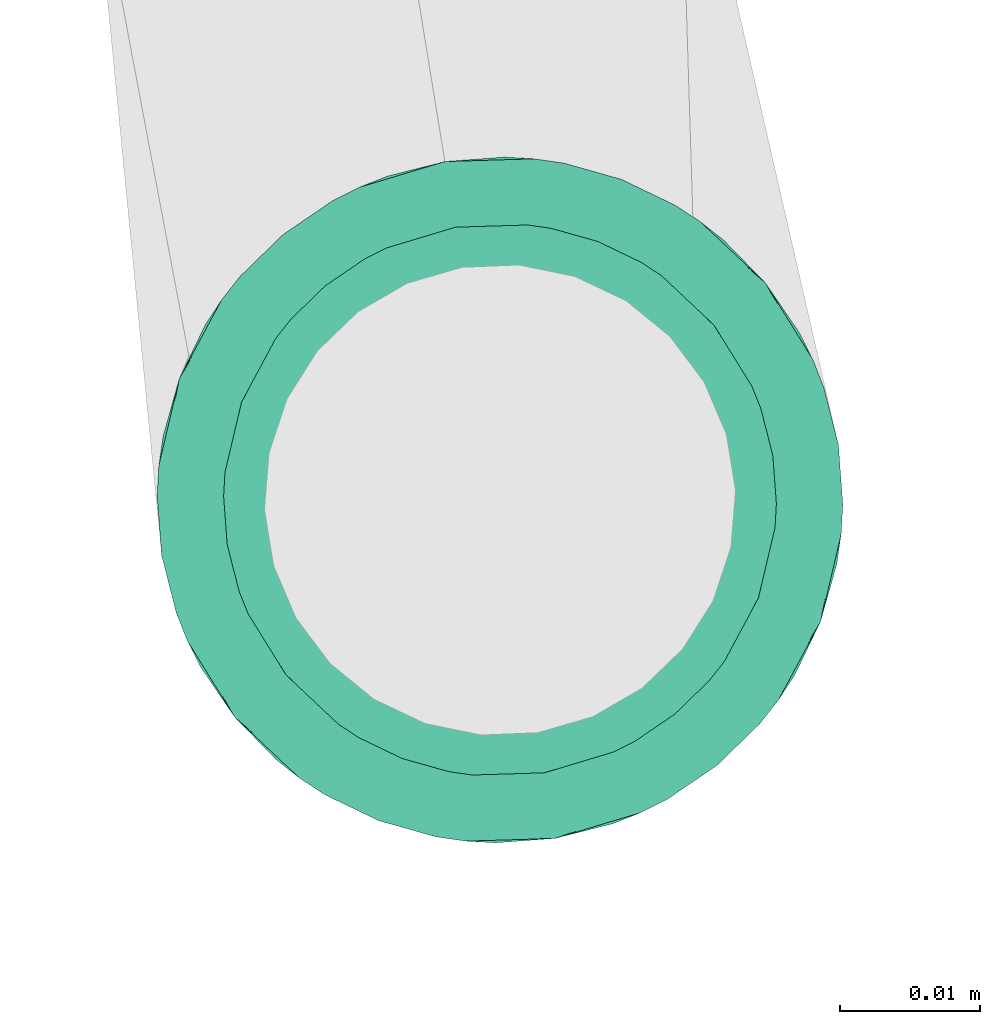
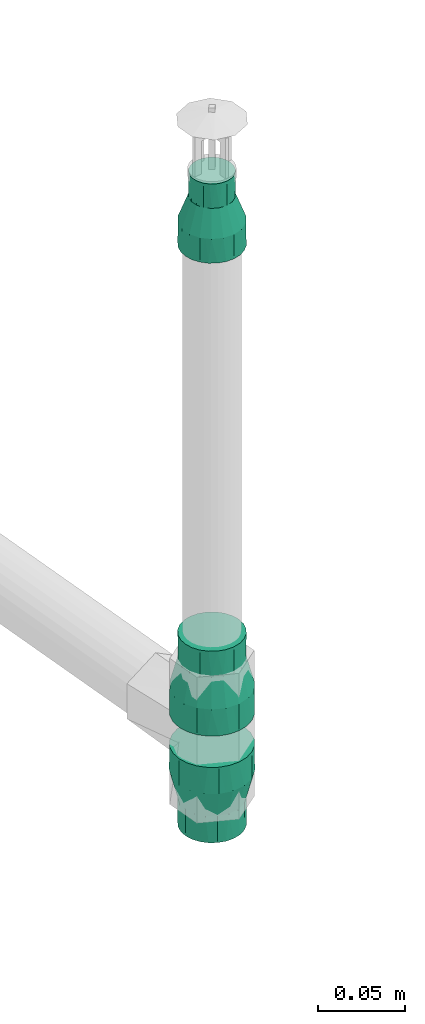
# One storey, part 30 of 56: 3 flow fittings.
"""IFC2X3 building model written with IfcOpenShell, lengths in millimetres."""

from ifc_helpers import new_model, entity, si_unit, converted_unit, derived_unit, direction, frame, origin, origin_with_axes, place, context, subcontext, project, spatial, faceted_brep, source, transform, mapped, material, type_object, element, save


model = new_model("IFC2X3")

# Units and contexts
model_context = context("Model", 3, precision=0.01, world=origin(), true_north=direction((6.12323399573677e-17, 1.0)))
plan_context = context("Plan", 3, precision=1e-05, world=origin_with_axes())
body_context = subcontext(model_context, "Body", "Model", "MODEL_VIEW")
ifc_project = project(units=[converted_unit("PLANEANGLEUNIT", "DEGREE", entity("IfcPositiveLengthMeasure", 0.0174532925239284), si_unit("PLANEANGLEUNIT", "RADIAN"), dimensions=[0, 0, 0, 0, 0, 0, 0]), si_unit("AREAUNIT", "SQUARE_METRE"), si_unit("LENGTHUNIT", "METRE", prefix="MILLI"), si_unit("MASSUNIT", "GRAM", prefix="KILO"), si_unit("POWERUNIT", "WATT"), si_unit("PRESSUREUNIT", "PASCAL", prefix="KILO"), si_unit("FORCEUNIT", "NEWTON", prefix="KILO"), si_unit("ELECTRICVOLTAGEUNIT", "VOLT"), si_unit("ELECTRICCURRENTUNIT", "AMPERE"), si_unit("THERMODYNAMICTEMPERATUREUNIT", "DEGREE_CELSIUS"), si_unit("TIMEUNIT", "SECOND"), si_unit("VOLUMEUNIT", "CUBIC_METRE"), derived_unit("LINEARVELOCITYUNIT", [(si_unit("LENGTHUNIT", "METRE"), 1), (si_unit("TIMEUNIT", "SECOND"), -1)]), derived_unit("VOLUMETRICFLOWRATEUNIT", [(si_unit("VOLUMEUNIT", "CUBIC_METRE"), 1), (si_unit("TIMEUNIT", "SECOND"), -1)]), derived_unit("THERMALTRANSMITTANCEUNIT", [(si_unit("POWERUNIT", "WATT"), 1), (si_unit("THERMODYNAMICTEMPERATUREUNIT", "KELVIN"), -1), (si_unit("AREAUNIT", "SQUARE_METRE"), -1)]), derived_unit("SOUNDPRESSUREUNIT", [(si_unit("PRESSUREUNIT", "PASCAL"), 1)])], contexts=[model_context, plan_context])

# Site, building, storey
site_placement = place(None, frame((-3.09682673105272e-06, 1.93776733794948e-05, 0.0), z_axis=(0.0, 0.0, 1.0), x_axis=(-0.160806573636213, 0.986985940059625, 0.0)))
site = spatial("IfcSite", under=ifc_project, at=site_placement, Name="Default", CompositionType="ELEMENT")
building_placement = place(site_placement, frame((0.0, 0.0, 0.0), z_axis=(0.0, 0.0, 1.0), x_axis=(1.0, -2.77555756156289e-17, 0.0)))
building = spatial("IfcBuilding", under=site, at=building_placement, Name="Bygning (endres i Project Information)", CompositionType="ELEMENT")
storey_placement = place(building_placement, frame((0.0, 0.0, 51360.0000000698), z_axis=(0.0, 0.0, 1.0), x_axis=(1.0, -2.77555756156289e-17, 0.0)))
storey = spatial("IfcBuildingStorey", under=building, at=storey_placement, Name="H01-Nivå D+0,36", CompositionType="ELEMENT", Elevation=51360.0000000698)

# Flow fittings
ifc_material = material(Name="3320.001")
pipe_fitting_type_1 = type_object("IfcPipeFittingType", Name="RS_53_PIF_UN_Reducing-Socket-EN10241_MC_gen:RS_53_PIF_UN_Reducing-Socket-EN10241_MC_gen", PredefinedType="NOTDEFINED", material=ifc_material)
shared_shape_1 = source(origin(), body_context, "Body", "Brep", [
    faceted_brep([(0.0, 5.11167614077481, 19.0770350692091), (0.0, 9.87500000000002, 17.1040017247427), (0.0, 13.9653589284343, 13.9653589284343), (0.0, 17.1040017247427, 9.87499999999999), (0.0, 19.0770350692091, 5.11167614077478), (0.0, 19.75, 0.0), (0.0, 19.0770350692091, -5.1116761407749), (0.0, 17.1040017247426, -9.8750000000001), (0.0, 13.9653589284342, -13.9653589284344), (0.0, 9.87499999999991, -17.1040017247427), (0.0, 5.11167614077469, -19.0770350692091), (0.0, 0.0, -19.75), (0.0, -5.11167614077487, -19.0770350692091), (0.0, -9.87500000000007, -17.1040017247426), (0.0, -13.9653589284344, -13.9653589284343), (0.0, -17.1040017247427, -9.87499999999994), (0.0, -19.0770350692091, -5.11167614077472), (0.0, -19.75, 0.0), (0.0, -19.0770350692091, 5.11167614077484), (0.0, -17.1040017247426, 9.87500000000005), (0.0, -13.9653589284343, 13.9653589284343), (0.0, -9.87499999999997, 17.1040017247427), (0.0, -5.11167614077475, 19.0770350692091), (0.0, 0.0, 19.75), (17.0, -6.65118285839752, -18.277344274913), (17.0, -15.1289479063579, -12.6955675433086), (17.0, -16.8438814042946, -9.72538978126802), (17.0, -18.5588149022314, -6.7552120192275), (17.0, -9.87413131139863, -17.1045032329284), (17.0, -12.5015396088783, -14.9000353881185), (17.0, -19.1544074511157, -3.37760600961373), (17.0, -3.42823440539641, -19.4501853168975), (17.0, 3.43119786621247, -19.4496627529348), (17.0, 0.0014817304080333, -19.4499240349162), (17.0, -19.75, 0.0), (17.0, 6.65396758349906, -18.2763306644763), (17.0, 9.87673730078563, -17.1029985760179), (17.0, 18.5598439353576, -6.75238425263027), (17.0, 16.8453630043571, -9.7228232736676), (17.0, 15.1308820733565, -12.6932622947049), (17.0, 12.5038096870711, -14.8981304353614), (17.0, 19.75, 0.0), (17.0, 15.1308820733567, 12.6932622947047), (17.0, 16.8453630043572, 9.72282327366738), (17.0, 18.5598439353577, 6.75238425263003), (17.0, 9.87673730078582, 17.1029985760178), (17.0, 12.5038096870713, 14.8981304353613), (17.0, 3.43119786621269, 19.4496627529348), (17.0, 6.65396758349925, 18.2763306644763), (17.0, -3.4282344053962, 19.4501853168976), (17.0, 0.00148173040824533, 19.4499240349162), (17.0, -15.1289479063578, 12.6955675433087), (17.0, -6.65118285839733, 18.277344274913), (17.0, -9.87413131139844, 17.1045032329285), (17.0, -12.5015396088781, 14.9000353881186), (17.0, -19.1544074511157, 3.37760600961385), (17.0, -18.5588149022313, 6.75521201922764), (17.0, -16.8438814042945, 9.72538978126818), (34.0, 13.5000000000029, 0.0), (34.0, 12.6868795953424, -4.61444320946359), (34.0, -4.54589529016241, -12.4935366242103), (34.0, -2.34276817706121, -13.2951659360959), (34.0, 6.75195505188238, -11.6902139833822), (34.0, 0.00166747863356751, -13.2948718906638), (34.0, 2.34610313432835, -13.2945778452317), (34.0, 10.3432928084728, -8.67561489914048), (34.0, 8.54762393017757, -10.1829144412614), (34.0, 4.54902909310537, -12.492395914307), (34.0, 11.5150862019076, -6.64502905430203), (34.0, -6.74902240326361, -11.6919073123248), (34.0, -13.4999999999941, 0.0), (34.0, -13.0928608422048, -2.30881275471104), (34.0, -10.3411162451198, -8.6782091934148), (34.0, -8.54506932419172, -10.1850582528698), (34.0, -12.6857216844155, -4.61762550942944), (34.0, -11.5134189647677, -6.64791735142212), (34.0, -13.0928608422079, 2.30881275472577), (34.0, -12.6857216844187, 4.6176255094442), (34.0, 2.34610313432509, 13.2945778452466), (34.0, 4.54902909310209, 12.4923959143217), (34.0, -10.3411162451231, 8.67820919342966), (34.0, 0.00166747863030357, 13.2948718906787), (34.0, -6.74902240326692, 11.6919073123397), (34.0, -8.54506932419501, 10.1850582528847), (34.0, -11.5134189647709, 6.64791735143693), (34.0, -2.34276817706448, 13.2951659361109), (34.0, -4.5458952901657, 12.4935366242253), (34.0, 12.6868795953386, 4.61444320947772), (34.0, 11.5150862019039, 6.64502905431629), (34.0, 10.3432928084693, 8.67561489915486), (34.0, 6.7519550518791, 11.6902139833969), (34.0, 8.54762393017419, 10.1829144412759), (51.0, 3.49405710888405, -13.0399986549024), (51.0, 6.75000000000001, -11.6913429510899), (51.0, 9.5459415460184, -9.54594154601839), (51.0, 11.6913429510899, -6.74999999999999), (51.0, 13.0399986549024, -3.49405710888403), (51.0, 13.5, 0.0), (51.0, 13.0399986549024, 3.49405710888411), (51.0, 11.6913429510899, 6.75000000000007), (51.0, 9.54594154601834, 9.54594154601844), (51.0, 6.74999999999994, 11.69134295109), (51.0, 3.49405710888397, 13.0399986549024), (51.0, 0.0, 13.5), (51.0, -3.49405710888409, 13.0399986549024), (51.0, -6.75000000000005, 11.6913429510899), (51.0, -9.54594154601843, 9.54594154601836), (51.0, -11.6913429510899, 6.74999999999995), (51.0, -13.0399986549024, 3.49405710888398), (51.0, -13.5, 0.0), (51.0, -13.0399986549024, -3.49405710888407), (51.0, -11.6913429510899, -6.75000000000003), (51.0, -9.54594154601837, -9.54594154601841), (51.0, -6.74999999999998, -11.6913429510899), (51.0, -3.49405710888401, -13.0399986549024), (51.0, 0.0, -13.5)], [[[0, 1, 2, 3, 4, 5, 6, 7, 8, 9, 10, 11, 12, 13, 14, 15, 16, 17, 18, 19, 20, 21, 22, 23]], [[24, 13, 12]], [[15, 14, 25]], [[15, 25, 26, 27]], [[28, 29, 13]], [[16, 27, 30]], [[30, 17, 16]], [[15, 27, 16]], [[12, 31, 24]], [[25, 14, 29]], [[11, 32, 33, 31]], [[24, 28, 13]], [[13, 29, 14]], [[30, 34, 17]], [[32, 11, 10]], [[35, 9, 36]], [[7, 37, 38, 39]], [[9, 35, 10]], [[7, 6, 37]], [[8, 39, 40]], [[32, 10, 35]], [[7, 39, 8]], [[40, 36, 9]], [[6, 41, 37]], [[6, 5, 41]], [[11, 31, 12]], [[40, 9, 8]], [[41, 5, 4]], [[3, 2, 42]], [[3, 42, 43, 44]], [[45, 46, 1]], [[44, 41, 4]], [[0, 47, 48]], [[42, 2, 46]], [[23, 49, 50, 47]], [[1, 46, 2]], [[49, 23, 22]], [[19, 51, 20]], [[52, 21, 53]], [[3, 44, 4]], [[48, 45, 1]], [[54, 53, 21]], [[17, 34, 55]], [[21, 52, 22]], [[20, 51, 54]], [[49, 22, 52]], [[48, 1, 0]], [[17, 55, 18]], [[56, 19, 18]], [[18, 55, 56]], [[54, 21, 20]], [[57, 51, 19, 56]], [[23, 47, 0]], [[41, 58, 59]], [[60, 31, 61]], [[40, 62, 36]], [[63, 32, 64]], [[65, 39, 38]], [[64, 32, 35]], [[61, 33, 63]], [[37, 41, 59]], [[62, 40, 66]], [[40, 39, 66]], [[35, 36, 67]], [[65, 38, 68]], [[37, 68, 38]], [[64, 35, 67]], [[61, 31, 33]], [[69, 28, 24]], [[69, 24, 60]], [[70, 30, 71]], [[72, 29, 73]], [[30, 70, 34]], [[74, 27, 26]], [[68, 37, 59]], [[72, 25, 29]], [[27, 74, 71]], [[31, 60, 24]], [[29, 28, 73]], [[75, 26, 25]], [[67, 36, 62]], [[66, 39, 65]], [[27, 71, 30]], [[74, 26, 75]], [[73, 28, 69]], [[63, 33, 32]], [[75, 25, 72]], [[56, 76, 77]], [[48, 78, 79]], [[54, 51, 80]], [[81, 47, 50]], [[57, 56, 77]], [[52, 53, 82]], [[82, 53, 83]], [[55, 70, 76]], [[70, 55, 34]], [[84, 51, 57]], [[50, 85, 81]], [[56, 55, 76]], [[86, 49, 52]], [[83, 53, 54]], [[81, 78, 47]], [[48, 47, 78]], [[80, 51, 84]], [[49, 85, 50]], [[87, 44, 88]], [[87, 58, 41]], [[43, 42, 89]], [[57, 77, 84]], [[46, 45, 90]], [[85, 49, 86]], [[88, 44, 43]], [[54, 80, 83]], [[91, 42, 46]], [[52, 82, 86]], [[89, 42, 91]], [[87, 41, 44]], [[90, 45, 79]], [[46, 90, 91]], [[79, 45, 48]], [[43, 89, 88]], [[92, 93, 94, 95, 96, 97, 98, 99, 100, 101, 102, 103, 104, 105, 106, 107, 108, 109, 110, 111, 112, 113, 114, 115]], [[58, 97, 96]], [[95, 94, 65]], [[95, 65, 68, 59]], [[62, 66, 93]], [[59, 58, 96]], [[92, 64, 67]], [[65, 94, 66]], [[115, 61, 63, 64]], [[93, 66, 94]], [[67, 93, 92]], [[67, 62, 93]], [[95, 59, 96]], [[114, 61, 115]], [[111, 110, 74]], [[73, 113, 112]], [[109, 71, 110]], [[111, 74, 75, 72]], [[109, 70, 71]], [[60, 61, 114]], [[113, 69, 60]], [[111, 72, 112]], [[113, 60, 114]], [[112, 72, 73]], [[115, 64, 92]], [[71, 74, 110]], [[73, 69, 113]], [[86, 105, 104]], [[107, 106, 80]], [[107, 80, 84, 77]], [[82, 83, 105]], [[108, 77, 76]], [[76, 70, 109]], [[76, 109, 108]], [[104, 85, 86]], [[80, 106, 83]], [[103, 78, 81, 85]], [[91, 101, 100]], [[105, 83, 106]], [[86, 82, 105]], [[78, 103, 102]], [[79, 101, 90]], [[99, 87, 88, 89]], [[101, 79, 102]], [[99, 98, 87]], [[100, 89, 91]], [[78, 102, 79]], [[103, 85, 104]], [[99, 89, 100]], [[98, 58, 87]], [[107, 77, 108]], [[98, 97, 58]], [[91, 90, 101]]]),
])
flow_fitting_1_placement = place(storey_placement, frame((994236.263254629, -386286.663841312, 3707.99999993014), z_axis=(2.77555756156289e-17, 1.0, 0.0), x_axis=(0.0, 0.0, 1.0)))
element("IfcFlowFitting", 1, at=flow_fitting_1_placement, inside=storey, type_object=pipe_fitting_type_1, material=ifc_material, Name="RS_53_PIF_UN_Reducing-Socket-EN10241_MC_gen:RS_53_PIF_UN_Reducing-Socket-EN10241_MC_gen", ObjectType="RS_53_PIF_UN_Reducing-Socket-EN10241_MC_gen:RS_53_PIF_UN_Reducing-Socket-EN10241_MC_gen", context=body_context, shape_type="MappedRepresentation", body=[
    mapped(shared_shape_1, transform((0.0, 0.0, 0.0), scale=1.0)),
])
pipe_fitting_type_2 = type_object("IfcPipeFittingType", Name="RS_53_PIF_UN_Reducing-Socket-EN10241_MC_gen:RS_53_PIF_UN_Reducing-Socket-EN10241_MC_gen", PredefinedType="NOTDEFINED", material=ifc_material)
shared_shape_2 = source(origin(), body_context, "Body", "Brep", [
    faceted_brep([(0.0, 0.0, 24.5), (0.0, 6.34106660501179, 23.6651827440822), (0.0, 12.25, 21.2176223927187), (0.0, 17.3241161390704, 17.3241161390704), (0.0, 21.2176223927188, 12.25), (0.0, 23.6651827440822, 6.34106660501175), (0.0, 24.5, 0.0), (0.0, 23.6651827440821, -6.34106660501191), (0.0, 21.2176223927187, -12.2500000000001), (0.0, 17.3241161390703, -17.3241161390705), (0.0, 12.2499999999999, -21.2176223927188), (0.0, 6.34106660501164, -23.6651827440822), (0.0, 0.0, -24.5), (0.0, -6.34106660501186, -23.6651827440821), (0.0, -12.2500000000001, -21.2176223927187), (0.0, -17.3241161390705, -17.3241161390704), (0.0, -21.2176223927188, -12.2499999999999), (0.0, -23.6651827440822, -6.34106660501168), (0.0, -24.5, 0.0), (0.0, -23.6651827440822, 6.34106660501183), (0.0, -21.2176223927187, 12.2500000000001), (0.0, -17.3241161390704, 17.3241161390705), (0.0, -12.25, 21.2176223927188), (0.0, -6.34106660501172, 23.6651827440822), (18.6666666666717, -8.25137606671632, -22.6729794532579), (18.6666666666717, -18.7677686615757, -15.7486780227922), (18.6666666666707, -20.8950763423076, -12.0642027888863), (18.6666666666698, -23.0223840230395, -8.37972755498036), (18.6666666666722, -12.2493529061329, -21.2179959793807), (18.6666666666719, -15.5085607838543, -18.4833370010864), (18.6666666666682, -23.7125607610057, -4.46565710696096), (18.6666666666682, -23.7611920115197, -4.18986377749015), (18.6666666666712, -4.25339922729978, -24.1279629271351), (18.6666666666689, 4.25560674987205, -24.1275736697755), (18.6666666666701, 0.00110376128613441, -24.1277682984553), (18.6666666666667, -24.5, 0.0), (18.6666666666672, 8.25345045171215, -22.6722244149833), (18.6666666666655, 12.2512941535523, -21.2168751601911), (18.6666666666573, 23.0231506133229, -8.37762113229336), (18.6666666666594, 20.8961800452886, -12.062290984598), (18.6666666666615, 18.7692094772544, -15.7469608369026), (18.6666666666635, 15.5102518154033, -18.4819179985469), (18.6666666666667, 24.5, 0.0), (18.6666666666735, 18.7692094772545, 15.7469608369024), (18.666666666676, 20.8961800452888, 12.0622909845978), (18.6666666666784, 23.023150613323, 8.3776211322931), (18.6666666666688, 12.2512941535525, 21.216875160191), (18.6666666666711, 15.5102518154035, 18.4819179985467), (18.6666666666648, 4.25560674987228, 24.1275736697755), (18.6666666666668, 8.25345045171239, 22.6722244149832), (18.6666666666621, -4.25339922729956, 24.1279629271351), (18.6666666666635, 0.00110376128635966, 24.1277682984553), (18.6666666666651, -23.7611920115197, 4.1898637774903), (18.6666666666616, -8.25137606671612, 22.672979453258), (18.666666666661, -12.2493529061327, 21.2179959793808), (18.6666666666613, -15.5085607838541, 18.4833370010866), (18.6666666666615, -18.7677686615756, 15.7486780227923), (18.6666666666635, -23.0223840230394, 8.37972755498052), (18.6666666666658, -23.7125607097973, 4.46565739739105), (18.6666666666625, -20.8950763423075, 12.0642027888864), (37.3333333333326, 19.750000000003, 0.0), (37.3333333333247, 18.5595959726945, -6.75306577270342), (37.3333333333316, 9.87626627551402, -17.1032705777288), (37.3333333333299, 12.5033702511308, -14.8985095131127), (37.3333333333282, 15.1304742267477, -12.6937484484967), (37.3333333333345, 3.43075149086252, -19.4497414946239), (37.333333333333, 6.65350888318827, -18.2765060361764), (37.3333333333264, 16.8450350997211, -9.72340711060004), (37.3333333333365, -3.42859151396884, -19.4501223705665), (37.3333333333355, 0.00107998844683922, -19.4499319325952), (37.3333333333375, -9.87436684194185, -17.1043672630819), (37.333333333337, -6.65147917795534, -18.2772448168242), (37.3333333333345, -19.1544229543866, -3.37756341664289), (37.3333333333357, -18.558845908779, -6.75512683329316), (37.3333333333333, -19.7499999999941, 0.0), (37.3333333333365, -16.8439551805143, -9.72527774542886), (37.3333333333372, -15.1290644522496, -12.6954286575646), (37.3333333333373, -12.5017156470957, -14.8998979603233), (37.3333333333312, -18.5588459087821, 6.755126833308), (37.3333333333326, -19.1544229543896, 3.37756341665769), (37.3333333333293, -15.1290644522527, 12.6954286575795), (37.3333333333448, 18.559595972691, 6.75306577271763), (37.3333333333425, 16.8450350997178, 9.72340711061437), (37.3333333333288, -9.87436684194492, 17.104367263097), (37.3333333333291, -12.5017156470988, 14.8998979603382), (37.3333333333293, -6.65147917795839, 18.2772448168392), (37.3333333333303, -16.8439551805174, 9.72527774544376), (37.333333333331, 0.00107998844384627, 19.4499319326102), (37.3333333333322, 3.43075149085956, 19.4497414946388), (37.3333333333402, 15.1304742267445, 12.6937484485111), (37.333333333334, 6.65350888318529, 18.2765060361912), (37.3333333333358, 9.87626627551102, 17.1032705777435), (37.333333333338, 12.5033702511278, 14.8985095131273), (37.3333333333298, -3.42859151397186, 19.4501223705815), (56.0, 5.11167614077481, -19.0770350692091), (56.0, 9.87500000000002, -17.1040017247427), (56.0, 13.9653589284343, -13.9653589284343), (56.0, 17.1040017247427, -9.87499999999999), (56.0, 19.0770350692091, -5.11167614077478), (56.0, 19.75, 0.0), (56.0, 19.0770350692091, 5.1116761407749), (56.0, 17.1040017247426, 9.8750000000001), (56.0, 13.9653589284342, 13.9653589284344), (56.0, 9.87499999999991, 17.1040017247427), (56.0, 5.11167614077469, 19.0770350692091), (56.0, 0.0, 19.75), (56.0, -5.11167614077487, 19.0770350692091), (56.0, -9.87500000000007, 17.1040017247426), (56.0, -13.9653589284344, 13.9653589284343), (56.0, -17.1040017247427, 9.87499999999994), (56.0, -19.0770350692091, 5.11167614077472), (56.0, -19.75, 0.0), (56.0, -19.0770350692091, -5.11167614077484), (56.0, -17.1040017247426, -9.87500000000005), (56.0, -13.9653589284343, -13.9653589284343), (56.0, -9.87499999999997, -17.1040017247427), (56.0, -5.11167614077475, -19.0770350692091), (56.0, 0.0, -19.75)], [[[0, 1, 2, 3, 4, 5, 6, 7, 8, 9, 10, 11, 12, 13, 14, 15, 16, 17, 18, 19, 20, 21, 22, 23]], [[24, 14, 13]], [[16, 15, 25]], [[16, 25, 26, 27]], [[28, 29, 14]], [[17, 27, 30, 31]], [[31, 18, 17]], [[16, 27, 17]], [[13, 32, 24]], [[25, 15, 29]], [[12, 33, 34, 32]], [[24, 28, 14]], [[14, 29, 15]], [[31, 35, 18]], [[33, 12, 11]], [[36, 10, 37]], [[8, 38, 39, 40]], [[10, 36, 11]], [[8, 7, 38]], [[9, 40, 41]], [[33, 11, 36]], [[8, 40, 9]], [[41, 37, 10]], [[7, 42, 38]], [[7, 6, 42]], [[12, 32, 13]], [[41, 10, 9]], [[42, 6, 5]], [[4, 3, 43]], [[4, 43, 44, 45]], [[46, 47, 2]], [[45, 42, 5]], [[1, 48, 49]], [[43, 3, 47]], [[0, 50, 51, 48]], [[2, 47, 3]], [[50, 0, 23]], [[0, 48, 1]], [[18, 52, 19]], [[53, 22, 54]], [[49, 2, 1]], [[55, 22, 21]], [[35, 52, 18]], [[4, 45, 5]], [[22, 53, 23]], [[21, 56, 55]], [[50, 23, 53]], [[49, 46, 2]], [[20, 56, 21]], [[57, 20, 19]], [[19, 52, 58, 57]], [[55, 54, 22]], [[59, 56, 20, 57]], [[42, 60, 61]], [[41, 62, 37]], [[63, 40, 64]], [[40, 39, 64]], [[33, 36, 65]], [[65, 36, 66]], [[38, 42, 61]], [[64, 39, 67]], [[41, 40, 63]], [[36, 37, 66]], [[62, 41, 63]], [[38, 67, 39]], [[68, 34, 69]], [[68, 32, 34]], [[24, 70, 28]], [[32, 68, 71]], [[72, 35, 31, 30]], [[73, 27, 26]], [[72, 74, 35]], [[26, 75, 73]], [[76, 25, 29]], [[29, 77, 76]], [[70, 24, 71]], [[24, 32, 71]], [[70, 77, 28]], [[76, 75, 25]], [[28, 77, 29]], [[25, 75, 26]], [[73, 30, 27]], [[30, 73, 72]], [[66, 37, 62]], [[69, 34, 33]], [[69, 33, 65]], [[67, 38, 61]], [[78, 58, 79]], [[80, 55, 56]], [[81, 45, 82]], [[78, 59, 57]], [[83, 53, 54]], [[55, 80, 84]], [[79, 58, 52, 35]], [[78, 57, 58]], [[84, 54, 55]], [[85, 50, 53]], [[79, 35, 74]], [[86, 56, 59]], [[84, 83, 54]], [[48, 87, 88]], [[49, 48, 88]], [[59, 78, 86]], [[53, 83, 85]], [[87, 48, 51]], [[81, 60, 42]], [[44, 43, 89]], [[90, 46, 49]], [[47, 46, 91]], [[86, 80, 56]], [[82, 45, 44]], [[49, 88, 90]], [[92, 43, 47]], [[91, 46, 90]], [[51, 50, 93]], [[42, 45, 81]], [[85, 93, 50]], [[44, 89, 82]], [[51, 93, 87]], [[47, 91, 92]], [[89, 43, 92]], [[94, 95, 96, 97, 98, 99, 100, 101, 102, 103, 104, 105, 106, 107, 108, 109, 110, 111, 112, 113, 114, 115, 116, 117]], [[60, 99, 98]], [[97, 96, 64]], [[97, 64, 67, 61]], [[62, 63, 95]], [[61, 60, 98]], [[94, 65, 66]], [[64, 96, 63]], [[117, 68, 69, 65]], [[95, 63, 96]], [[117, 116, 68]], [[77, 70, 115]], [[66, 95, 94]], [[115, 70, 71]], [[113, 112, 73]], [[115, 71, 116]], [[117, 65, 94]], [[97, 61, 98]], [[72, 111, 74]], [[71, 68, 116]], [[113, 76, 114]], [[114, 76, 77]], [[77, 115, 114]], [[113, 73, 75, 76]], [[111, 72, 112]], [[66, 62, 95]], [[72, 73, 112]], [[85, 107, 106]], [[109, 108, 80]], [[109, 80, 86, 78]], [[83, 84, 107]], [[110, 78, 79]], [[79, 111, 110]], [[109, 78, 110]], [[106, 93, 85]], [[80, 108, 84]], [[105, 88, 87, 93]], [[85, 83, 107]], [[107, 84, 108]], [[79, 74, 111]], [[88, 105, 104]], [[90, 103, 91]], [[101, 81, 82, 89]], [[103, 90, 104]], [[101, 100, 81]], [[102, 89, 92]], [[88, 104, 90]], [[101, 89, 102]], [[92, 91, 103]], [[100, 60, 81]], [[100, 99, 60]], [[105, 93, 106]], [[92, 103, 102]]]),
])
flow_fitting_2_placement = place(storey_placement, frame((994236.263254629, -386286.663841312, 3380.93333333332), z_axis=(2.77555756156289e-17, 1.0, 0.0), x_axis=(0.0, 0.0, 1.0)))
element("IfcFlowFitting", 2, at=flow_fitting_2_placement, inside=storey, type_object=pipe_fitting_type_2, material=ifc_material, Name="RS_53_PIF_UN_Reducing-Socket-EN10241_MC_gen:RS_53_PIF_UN_Reducing-Socket-EN10241_MC_gen", ObjectType="RS_53_PIF_UN_Reducing-Socket-EN10241_MC_gen:RS_53_PIF_UN_Reducing-Socket-EN10241_MC_gen", context=body_context, shape_type="MappedRepresentation", body=[
    mapped(shared_shape_2, transform((0.0, 0.0, 0.0), scale=1.0)),
])
pipe_fitting_type_3 = type_object("IfcPipeFittingType", Name="RS_53_PIF_UN_Reducing-Socket-EN10241_MC_gen:RS_53_PIF_UN_Reducing-Socket-EN10241_MC_gen", PredefinedType="NOTDEFINED", material=ifc_material)
shared_shape_3 = source(origin(), body_context, "Body", "Brep", [
    faceted_brep([(0.0, -12.25, 21.2176223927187), (0.0, -6.34106660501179, 23.6651827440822), (0.0, 0.0, 24.5), (0.0, 6.34106660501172, 23.6651827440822), (0.0, 12.25, 21.2176223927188), (0.0, 17.3241161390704, 17.3241161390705), (0.0, 21.2176223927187, 12.2500000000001), (0.0, 23.6651827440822, 6.34106660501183), (0.0, 24.5, 0.0), (0.0, 23.6651827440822, -6.34106660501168), (0.0, 21.2176223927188, -12.2499999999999), (0.0, 17.3241161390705, -17.3241161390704), (0.0, 12.2500000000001, -21.2176223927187), (0.0, 6.34106660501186, -23.6651827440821), (0.0, 0.0, -24.5), (0.0, -6.34106660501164, -23.6651827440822), (0.0, -12.2499999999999, -21.2176223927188), (0.0, -17.3241161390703, -17.3241161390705), (0.0, -21.2176223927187, -12.2500000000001), (0.0, -23.6651827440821, -6.34106660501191), (0.0, -24.5, 0.0), (0.0, -23.6651827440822, 6.34106660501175), (0.0, -21.2176223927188, 12.25), (0.0, -17.3241161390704, 17.3241161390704), (18.6666666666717, 8.25137606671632, -22.6729794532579), (18.6666666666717, 18.7677686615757, -15.7486780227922), (18.6666666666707, 20.8950763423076, -12.0642027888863), (18.6666666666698, 23.0223840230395, -8.37972755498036), (18.6666666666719, 15.5085607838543, -18.4833370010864), (18.6666666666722, 12.2493529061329, -21.2179959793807), (18.6666666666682, 23.7611920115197, -4.18986377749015), (18.6666666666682, 23.7125607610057, -4.46565710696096), (18.6666666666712, 4.25339922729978, -24.1279629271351), (18.6666666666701, -0.00110376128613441, -24.1277682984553), (18.6666666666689, -4.25560674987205, -24.1275736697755), (18.6666666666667, 24.5, 0.0), (18.6666666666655, -12.2512941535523, -21.2168751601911), (18.6666666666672, -8.25345045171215, -22.6722244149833), (18.6666666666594, -20.8961800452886, -12.062290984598), (18.6666666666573, -23.0231506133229, -8.37762113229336), (18.6666666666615, -18.7692094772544, -15.7469608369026), (18.6666666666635, -15.5102518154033, -18.4819179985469), (18.6666666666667, -24.5, 0.0), (18.6666666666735, -18.7692094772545, 15.7469608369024), (18.666666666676, -20.8961800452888, 12.0622909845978), (18.6666666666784, -23.023150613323, 8.3776211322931), (18.6666666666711, -15.5102518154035, 18.4819179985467), (18.6666666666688, -12.2512941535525, 21.216875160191), (18.6666666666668, -8.25345045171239, 22.6722244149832), (18.6666666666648, -4.25560674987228, 24.1275736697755), (18.6666666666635, -0.00110376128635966, 24.1277682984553), (18.6666666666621, 4.25339922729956, 24.1279629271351), (18.6666666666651, 23.7611920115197, 4.1898637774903), (18.666666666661, 12.2493529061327, 21.2179959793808), (18.6666666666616, 8.25137606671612, 22.672979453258), (18.6666666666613, 15.5085607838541, 18.4833370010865), (18.6666666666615, 18.7677686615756, 15.7486780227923), (18.6666666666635, 23.0223840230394, 8.37972755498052), (18.6666666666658, 23.7125607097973, 4.46565739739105), (18.6666666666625, 20.8950763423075, 12.0642027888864), (37.3333333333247, -18.5595959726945, -6.75306577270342), (37.3333333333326, -19.750000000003, 0.0), (37.3333333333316, -9.87626627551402, -17.1032705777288), (37.3333333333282, -15.1304742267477, -12.6937484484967), (37.3333333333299, -12.5033702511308, -14.8985095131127), (37.3333333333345, -3.43075149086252, -19.4497414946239), (37.333333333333, -6.65350888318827, -18.2765060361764), (37.3333333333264, -16.8450350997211, -9.72340711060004), (37.3333333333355, -0.00107998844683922, -19.4499319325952), (37.3333333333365, 3.42859151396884, -19.4501223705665), (37.3333333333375, 9.87436684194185, -17.1043672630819), (37.333333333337, 6.65147917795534, -18.2772448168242), (37.3333333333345, 19.1544229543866, -3.37756341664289), (37.3333333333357, 18.558845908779, -6.75512683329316), (37.3333333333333, 19.7499999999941, 0.0), (37.3333333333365, 16.8439551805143, -9.72527774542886), (37.3333333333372, 15.1290644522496, -12.6954286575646), (37.3333333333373, 12.5017156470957, -14.8998979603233), (37.3333333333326, 19.1544229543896, 3.37756341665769), (37.3333333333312, 18.5588459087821, 6.755126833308), (37.3333333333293, 15.1290644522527, 12.6954286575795), (37.3333333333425, -16.8450350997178, 9.72340711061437), (37.3333333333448, -18.559595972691, 6.75306577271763), (37.3333333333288, 9.87436684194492, 17.104367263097), (37.3333333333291, 12.5017156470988, 14.8998979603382), (37.3333333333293, 6.65147917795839, 18.2772448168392), (37.3333333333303, 16.8439551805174, 9.72527774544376), (37.3333333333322, -3.43075149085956, 19.4497414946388), (37.333333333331, -0.00107998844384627, 19.4499319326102), (37.3333333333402, -15.1304742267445, 12.6937484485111), (37.333333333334, -6.65350888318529, 18.2765060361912), (37.3333333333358, -9.87626627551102, 17.1032705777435), (37.333333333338, -12.5033702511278, 14.8985095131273), (37.3333333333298, 3.42859151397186, 19.4501223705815), (56.0, 0.0, -19.75), (56.0, 5.11167614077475, -19.0770350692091), (56.0, 9.87499999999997, -17.1040017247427), (56.0, 13.9653589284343, -13.9653589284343), (56.0, 17.1040017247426, -9.87500000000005), (56.0, 19.0770350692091, -5.11167614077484), (56.0, 19.75, 0.0), (56.0, 19.0770350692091, 5.11167614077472), (56.0, 17.1040017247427, 9.87499999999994), (56.0, 13.9653589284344, 13.9653589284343), (56.0, 9.87500000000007, 17.1040017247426), (56.0, 5.11167614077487, 19.0770350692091), (56.0, 0.0, 19.75), (56.0, -5.11167614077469, 19.0770350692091), (56.0, -9.87499999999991, 17.1040017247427), (56.0, -13.9653589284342, 13.9653589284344), (56.0, -17.1040017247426, 9.8750000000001), (56.0, -19.0770350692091, 5.1116761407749), (56.0, -19.75, 0.0), (56.0, -19.0770350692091, -5.11167614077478), (56.0, -17.1040017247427, -9.87499999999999), (56.0, -13.9653589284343, -13.9653589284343), (56.0, -9.87500000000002, -17.1040017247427), (56.0, -5.11167614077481, -19.0770350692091)], [[[0, 1, 2, 3, 4, 5, 6, 7, 8, 9, 10, 11, 12, 13, 14, 15, 16, 17, 18, 19, 20, 21, 22, 23]], [[13, 12, 24]], [[25, 11, 10]], [[26, 25, 10, 27]], [[12, 28, 29]], [[9, 30, 31, 27]], [[9, 8, 30]], [[9, 27, 10]], [[24, 32, 13]], [[28, 11, 25]], [[33, 34, 14, 32]], [[12, 29, 24]], [[11, 28, 12]], [[8, 35, 30]], [[15, 14, 34]], [[36, 16, 37]], [[38, 39, 18, 40]], [[15, 37, 16]], [[39, 19, 18]], [[41, 40, 17]], [[37, 15, 34]], [[17, 40, 18]], [[16, 36, 41]], [[39, 42, 19]], [[42, 20, 19]], [[13, 32, 14]], [[17, 16, 41]], [[21, 20, 42]], [[43, 23, 22]], [[44, 43, 22, 45]], [[0, 46, 47]], [[21, 42, 45]], [[48, 49, 1]], [[46, 23, 43]], [[50, 51, 2, 49]], [[23, 46, 0]], [[3, 2, 51]], [[1, 49, 2]], [[7, 52, 8]], [[53, 4, 54]], [[1, 0, 48]], [[5, 4, 55]], [[8, 52, 35]], [[21, 45, 22]], [[3, 54, 4]], [[55, 56, 5]], [[54, 3, 51]], [[0, 47, 48]], [[5, 56, 6]], [[7, 6, 57]], [[7, 57, 58, 52]], [[4, 53, 55]], [[6, 56, 59, 57]], [[60, 61, 42]], [[36, 62, 41]], [[63, 40, 64]], [[63, 38, 40]], [[65, 37, 34]], [[66, 37, 65]], [[60, 42, 39]], [[67, 38, 63]], [[64, 40, 41]], [[66, 36, 37]], [[64, 41, 62]], [[38, 67, 39]], [[68, 33, 69]], [[33, 32, 69]], [[29, 70, 24]], [[71, 69, 32]], [[72, 31, 30, 35]], [[26, 27, 73]], [[35, 74, 72]], [[73, 75, 26]], [[28, 25, 76]], [[76, 77, 28]], [[71, 24, 70]], [[71, 32, 24]], [[29, 77, 70]], [[25, 75, 76]], [[28, 77, 29]], [[26, 75, 25]], [[27, 31, 73]], [[72, 73, 31]], [[62, 36, 66]], [[34, 33, 68]], [[65, 34, 68]], [[60, 39, 67]], [[78, 58, 79]], [[56, 55, 80]], [[81, 45, 82]], [[57, 59, 79]], [[53, 54, 83]], [[84, 80, 55]], [[78, 35, 52, 58]], [[58, 57, 79]], [[55, 53, 84]], [[54, 51, 85]], [[74, 35, 78]], [[59, 56, 86]], [[53, 83, 84]], [[87, 88, 49]], [[87, 49, 48]], [[86, 79, 59]], [[85, 83, 54]], [[50, 49, 88]], [[42, 61, 82]], [[89, 43, 44]], [[48, 47, 90]], [[91, 47, 46]], [[56, 80, 86]], [[44, 45, 81]], [[90, 87, 48]], [[46, 43, 92]], [[90, 47, 91]], [[93, 51, 50]], [[82, 45, 42]], [[51, 93, 85]], [[81, 89, 44]], [[88, 93, 50]], [[92, 91, 46]], [[92, 43, 89]], [[94, 95, 96, 97, 98, 99, 100, 101, 102, 103, 104, 105, 106, 107, 108, 109, 110, 111, 112, 113, 114, 115, 116, 117]], [[113, 112, 61]], [[63, 115, 114]], [[67, 63, 114, 60]], [[116, 64, 62]], [[113, 61, 60]], [[66, 65, 117]], [[64, 115, 63]], [[68, 69, 94, 65]], [[115, 64, 116]], [[69, 95, 94]], [[96, 70, 77]], [[117, 116, 66]], [[71, 70, 96]], [[73, 99, 98]], [[95, 71, 96]], [[117, 65, 94]], [[113, 60, 114]], [[74, 100, 72]], [[95, 69, 71]], [[97, 76, 98]], [[77, 76, 97]], [[97, 96, 77]], [[75, 73, 98, 76]], [[99, 72, 100]], [[116, 62, 66]], [[99, 73, 72]], [[105, 104, 85]], [[80, 103, 102]], [[86, 80, 102, 79]], [[104, 84, 83]], [[78, 79, 101]], [[101, 100, 78]], [[101, 79, 102]], [[85, 93, 105]], [[84, 103, 80]], [[88, 87, 106, 93]], [[104, 83, 85]], [[103, 84, 104]], [[100, 74, 78]], [[107, 106, 87]], [[91, 108, 90]], [[81, 82, 110, 89]], [[107, 90, 108]], [[82, 111, 110]], [[92, 89, 109]], [[90, 107, 87]], [[109, 89, 110]], [[108, 91, 92]], [[82, 61, 111]], [[61, 112, 111]], [[105, 93, 106]], [[109, 108, 92]]]),
])
flow_fitting_3_placement = place(storey_placement, frame((994236.263254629, -386286.663841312, 3359.06666666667), z_axis=(1.0, -2.77555756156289e-17, 0.0), x_axis=(0.0, 0.0, -1.0)))
element("IfcFlowFitting", 3, at=flow_fitting_3_placement, inside=storey, type_object=pipe_fitting_type_3, material=ifc_material, Name="RS_53_PIF_UN_Reducing-Socket-EN10241_MC_gen:RS_53_PIF_UN_Reducing-Socket-EN10241_MC_gen", ObjectType="RS_53_PIF_UN_Reducing-Socket-EN10241_MC_gen:RS_53_PIF_UN_Reducing-Socket-EN10241_MC_gen", context=body_context, shape_type="MappedRepresentation", body=[
    mapped(shared_shape_3, transform((0.0, 0.0, 0.0), scale=1.0)),
])

save(model, "model.ifc")
